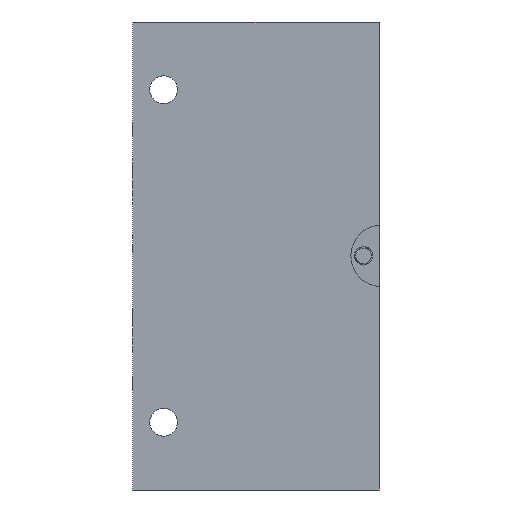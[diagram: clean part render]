
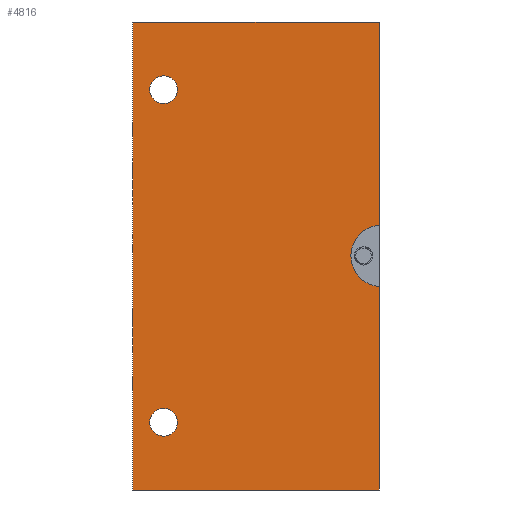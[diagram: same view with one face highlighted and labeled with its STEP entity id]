
A CAD part, front view. The second image highlights one B-rep face of the part: STEP entity #4816.
In plain terms, the highlighted planar face has unit normal (0, -1, 0).
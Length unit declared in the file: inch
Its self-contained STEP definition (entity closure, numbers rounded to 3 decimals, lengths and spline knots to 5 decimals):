
#187=CIRCLE('',#4997,0.3125);
#226=CIRCLE('',#5117,0.14063);
#227=CIRCLE('',#5119,0.14063);
#524=LINE('',#8087,#792);
#526=LINE('',#8100,#794);
#532=LINE('',#8398,#800);
#533=LINE('',#8400,#801);
#534=LINE('',#8401,#802);
#792=VECTOR('',#5874,2.5);
#794=VECTOR('',#5888,2.5);
#800=VECTOR('',#5994,4.75);
#801=VECTOR('',#5997,2.06304);
#802=VECTOR('',#5998,2.06404);
#948=PLANE('',#5163);
#1096=FACE_BOUND('',#1722,.T.);
#1097=FACE_BOUND('',#1723,.T.);
#1360=FACE_OUTER_BOUND('',#1721,.T.);
#1721=EDGE_LOOP('',(#3833,#3834,#3835,#3836,#3837,#3838));
#1722=EDGE_LOOP('',(#3839));
#1723=EDGE_LOOP('',(#3840));
#2135=VERTEX_POINT('',#6779);
#2136=VERTEX_POINT('',#6781);
#2334=VERTEX_POINT('',#8083);
#2335=VERTEX_POINT('',#8085);
#2339=VERTEX_POINT('',#8097);
#2340=VERTEX_POINT('',#8099);
#2343=VERTEX_POINT('',#8108);
#2344=VERTEX_POINT('',#8111);
#2586=EDGE_CURVE('',#2136,#2135,#187,.T.);
#2874=EDGE_CURVE('',#2334,#2335,#524,.T.);
#2879=EDGE_CURVE('',#2340,#2339,#526,.T.);
#2883=EDGE_CURVE('',#2343,#2343,#226,.T.);
#2884=EDGE_CURVE('',#2344,#2344,#227,.T.);
#2921=EDGE_CURVE('',#2339,#2334,#532,.T.);
#2922=EDGE_CURVE('',#2340,#2135,#533,.T.);
#2923=EDGE_CURVE('',#2136,#2335,#534,.T.);
#3833=ORIENTED_EDGE('',*,*,#2586,.T.);
#3834=ORIENTED_EDGE('',*,*,#2922,.F.);
#3835=ORIENTED_EDGE('',*,*,#2879,.T.);
#3836=ORIENTED_EDGE('',*,*,#2921,.T.);
#3837=ORIENTED_EDGE('',*,*,#2874,.T.);
#3838=ORIENTED_EDGE('',*,*,#2923,.F.);
#3839=ORIENTED_EDGE('',*,*,#2883,.T.);
#3840=ORIENTED_EDGE('',*,*,#2884,.T.);
#4816=ADVANCED_FACE('',(#1360,#1096,#1097),#948,.T.);
#4997=AXIS2_PLACEMENT_3D('',#6782,#5484,#5485);
#5117=AXIS2_PLACEMENT_3D('',#8109,#5898,#5899);
#5119=AXIS2_PLACEMENT_3D('',#8112,#5902,#5903);
#5163=AXIS2_PLACEMENT_3D('',#8399,#5995,#5996);
#5484=DIRECTION('center_axis',(0.,1.,0.));
#5485=DIRECTION('ref_axis',(-0.082,0.,
0.997));
#5874=DIRECTION('',(1.,0.,0.));
#5888=DIRECTION('',(-1.,0.,0.));
#5898=DIRECTION('center_axis',(0.,1.,0.));
#5899=DIRECTION('ref_axis',(1.,0.,0.));
#5902=DIRECTION('center_axis',(0.,1.,0.));
#5903=DIRECTION('ref_axis',(1.,0.,0.));
#5994=DIRECTION('',(0.,0.,-1.));
#5995=DIRECTION('center_axis',(0.,-1.,0.));
#5996=DIRECTION('ref_axis',(0.,0.,-1.));
#5997=DIRECTION('',(0.,0.,-1.));
#5998=DIRECTION('',(0.,0.,-1.));
#6779=CARTESIAN_POINT('',(1.25,-0.75,-2.06304));
#6781=CARTESIAN_POINT('',(1.25,-0.75,-2.68596));
#6782=CARTESIAN_POINT('Origin',(1.2755,-0.75,-2.3745));
#8083=CARTESIAN_POINT('',(-1.25,-0.75,-4.75));
#8085=CARTESIAN_POINT('',(1.25,-0.75,-4.75));
#8087=CARTESIAN_POINT('',(1.25,-0.75,-4.75));
#8097=CARTESIAN_POINT('',(-1.25,-0.75,0.));
#8099=CARTESIAN_POINT('',(1.25,-0.75,0.));
#8100=CARTESIAN_POINT('',(1.25,-0.75,0.));
#8108=CARTESIAN_POINT('',(-1.07813,-0.75,-0.6875));
#8109=CARTESIAN_POINT('Origin',(-0.9375,-0.75,-0.6875));
#8111=CARTESIAN_POINT('',(-1.07813,-0.75,-4.0625));
#8112=CARTESIAN_POINT('Origin',(-0.9375,-0.75,-4.0625));
#8398=CARTESIAN_POINT('',(-1.25,-0.75,0.));
#8399=CARTESIAN_POINT('Origin',(-1.25,-0.75,0.));
#8400=CARTESIAN_POINT('',(1.25,-0.75,0.));
#8401=CARTESIAN_POINT('',(1.25,-0.75,0.));
